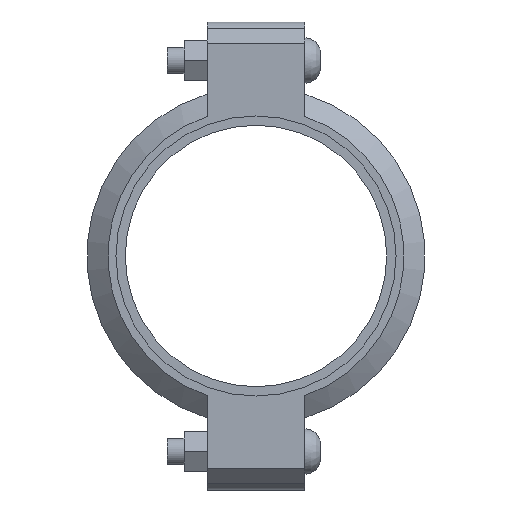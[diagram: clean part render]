
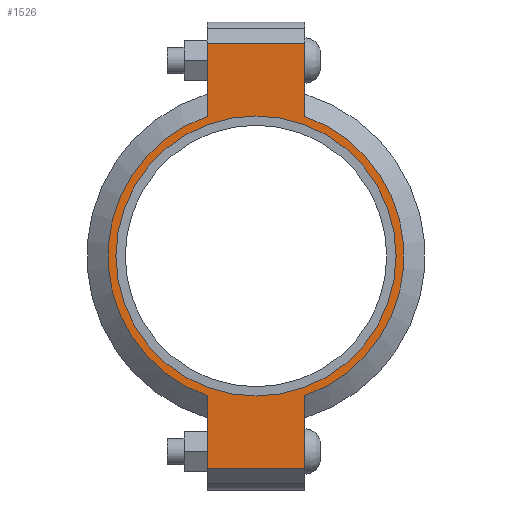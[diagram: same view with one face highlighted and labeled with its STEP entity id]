
A CAD part, left-side view. The second image highlights one B-rep face of the part: STEP entity #1526.
In plain terms, the highlighted planar face has unit normal (-1, 0, 0) as drawn and (0, 0, 1) by its records, which use the part's own axes.
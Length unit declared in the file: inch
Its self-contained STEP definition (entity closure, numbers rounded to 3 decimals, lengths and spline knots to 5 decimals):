
#150=LINE('',#2663,#243);
#158=LINE('',#2699,#251);
#165=LINE('',#2720,#258);
#174=LINE('',#2752,#267);
#175=LINE('',#2756,#268);
#176=LINE('',#2758,#269);
#243=VECTOR('',#2175,0.3937);
#251=VECTOR('',#2191,0.3937);
#258=VECTOR('',#2210,0.3937);
#267=VECTOR('',#2235,0.3937);
#268=VECTOR('',#2240,0.3937);
#269=VECTOR('',#2241,0.3937);
#325=FACE_BOUND('',#503,.T.);
#397=FACE_OUTER_BOUND('',#502,.T.);
#502=EDGE_LOOP('',(#1267,#1268,#1269,#1270,#1271,#1272,#1273,#1274));
#503=EDGE_LOOP('',(#1275));
#575=CIRCLE('',#1745,3.3125);
#601=CIRCLE('',#1804,3.5);
#602=CIRCLE('',#1805,3.5);
#667=VERTEX_POINT('',#2479);
#710=VERTEX_POINT('',#2660);
#711=VERTEX_POINT('',#2662);
#722=VERTEX_POINT('',#2694);
#723=VERTEX_POINT('',#2698);
#730=VERTEX_POINT('',#2717);
#731=VERTEX_POINT('',#2719);
#741=VERTEX_POINT('',#2755);
#742=VERTEX_POINT('',#2757);
#823=EDGE_CURVE('',#667,#667,#575,.T.);
#884=EDGE_CURVE('',#711,#710,#150,.T.);
#898=EDGE_CURVE('',#723,#722,#158,.T.);
#908=EDGE_CURVE('',#731,#730,#165,.T.);
#923=EDGE_CURVE('',#723,#710,#174,.T.);
#924=EDGE_CURVE('',#722,#731,#601,.T.);
#925=EDGE_CURVE('',#741,#730,#175,.T.);
#926=EDGE_CURVE('',#741,#742,#176,.T.);
#927=EDGE_CURVE('',#742,#711,#602,.T.);
#1267=ORIENTED_EDGE('',*,*,#923,.F.);
#1268=ORIENTED_EDGE('',*,*,#898,.T.);
#1269=ORIENTED_EDGE('',*,*,#924,.T.);
#1270=ORIENTED_EDGE('',*,*,#908,.T.);
#1271=ORIENTED_EDGE('',*,*,#925,.F.);
#1272=ORIENTED_EDGE('',*,*,#926,.T.);
#1273=ORIENTED_EDGE('',*,*,#927,.T.);
#1274=ORIENTED_EDGE('',*,*,#884,.T.);
#1275=ORIENTED_EDGE('',*,*,#823,.T.);
#1368=PLANE('',#1803);
#1526=ADVANCED_FACE('',(#397,#325),#1368,.T.);
#1745=AXIS2_PLACEMENT_3D('',#2481,#2051,#2052);
#1803=AXIS2_PLACEMENT_3D('',#2753,#2236,#2237);
#1804=AXIS2_PLACEMENT_3D('',#2754,#2238,#2239);
#1805=AXIS2_PLACEMENT_3D('',#2759,#2242,#2243);
#2051=DIRECTION('center_axis',(0.,0.,-1.));
#2052=DIRECTION('ref_axis',(-1.,0.,0.));
#2175=DIRECTION('',(-1.,0.,0.));
#2191=DIRECTION('',(1.,0.,0.));
#2210=DIRECTION('',(1.,0.,0.));
#2235=DIRECTION('',(0.,1.,0.));
#2236=DIRECTION('center_axis',(0.,0.,1.));
#2237=DIRECTION('ref_axis',(1.,0.,0.));
#2238=DIRECTION('center_axis',(0.,0.,1.));
#2239=DIRECTION('ref_axis',(-1.,0.,0.));
#2240=DIRECTION('',(0.,-1.,0.));
#2241=DIRECTION('',(-1.,0.,0.));
#2242=DIRECTION('center_axis',(0.,0.,1.));
#2243=DIRECTION('ref_axis',(-1.,0.,0.));
#2479=CARTESIAN_POINT('',(3.3125,0.,1.065));
#2481=CARTESIAN_POINT('Origin',(0.,0.,1.065));
#2660=CARTESIAN_POINT('',(-5.035,1.156,1.065));
#2662=CARTESIAN_POINT('',(-3.30358,1.156,1.065));
#2663=CARTESIAN_POINT('',(-5.535,1.156,1.065));
#2694=CARTESIAN_POINT('',(-3.30358,-1.156,1.065));
#2698=CARTESIAN_POINT('',(-5.035,-1.156,1.065));
#2699=CARTESIAN_POINT('',(5.535,-1.156,1.065));
#2717=CARTESIAN_POINT('',(5.035,-1.156,1.065));
#2719=CARTESIAN_POINT('',(3.30358,-1.156,1.065));
#2720=CARTESIAN_POINT('',(5.535,-1.156,1.065));
#2752=CARTESIAN_POINT('',(-5.035,0.578,1.065));
#2753=CARTESIAN_POINT('Origin',(0.,0.,1.065));
#2754=CARTESIAN_POINT('Origin',(0.,0.,1.065));
#2755=CARTESIAN_POINT('',(5.035,1.156,1.065));
#2756=CARTESIAN_POINT('',(5.035,-0.578,1.065));
#2757=CARTESIAN_POINT('',(3.30358,1.156,1.065));
#2758=CARTESIAN_POINT('',(-5.535,1.156,1.065));
#2759=CARTESIAN_POINT('Origin',(0.,0.,1.065));
